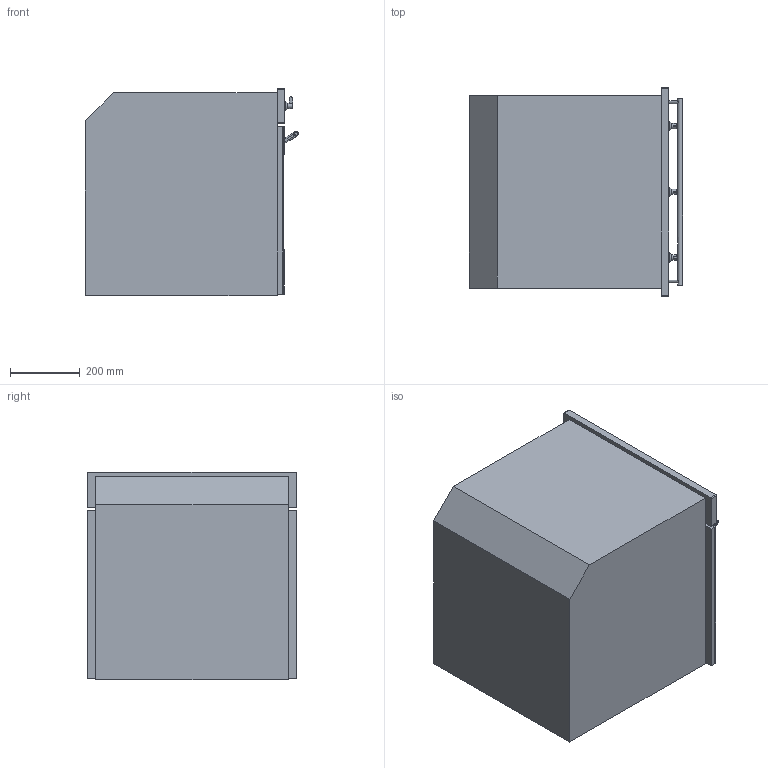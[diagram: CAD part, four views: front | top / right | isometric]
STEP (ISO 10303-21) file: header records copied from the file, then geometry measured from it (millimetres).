
FILE_DESCRIPTION(/* description */ (''),/* implementation_level */ '2;1');
FILE_NAME(/* name */ 'SFA6304X.stp',/* time_stamp */ '2015-07-28T13:55:03+02:00',/* author */ (''),/* organization */ (''),/* preprocessor_version */ 'ST-DEVELOPER v11',/* originating_system */ 'SIEMENS PLM Software NX 7.5',/* authorisation */ '');
FILE_SCHEMA (('AUTOMOTIVE_DESIGN { 1 0 10303 214 1 1 1 1 }'));
Length unit declared in the file: millimetre
Products named in the file (1): FAVE3BF4719f
Bounding box: 609 x 597 x 592 mm (x, y, z)
Volume: 179989550.9 mm3; surface area: 3467479.4 mm2
Topology: 21 solids, 21 shells, 205 faces, 454 edges, 302 vertices
Faces by surface type: plane 135, cylinder 56, extrusion 11, cone 3
Full cylindrical faces by diameter (mm): 4.608 x6, 8.5 x5, 12 x2, 14 x1, 15 x3, 20 x3, 27 x3
Entity records: 5870 total; most frequent: CARTESIAN_POINT 1262, DIRECTION 903, ORIENTED_EDGE 836, EDGE_CURVE 418, AXIS2_PLACEMENT_3D 310, VERTEX_POINT 295, VECTOR 283, LINE 272
